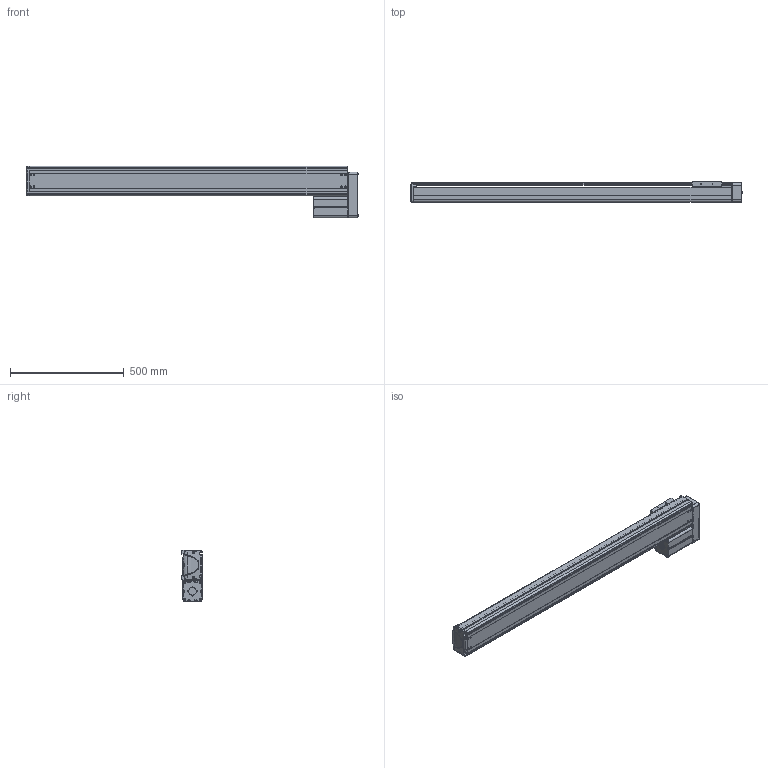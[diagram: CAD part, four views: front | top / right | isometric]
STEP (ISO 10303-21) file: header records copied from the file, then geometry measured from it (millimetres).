
FILE_DESCRIPTION((''),'2;1');
FILE_NAME('BE30E-UL-M_N-C0_IGS_PRT','2017-06-17T',(' '),(''),'PRO/ENGINEER BY PARAMETRIC TECHNOLOGY CORPORATION, 2015030','PRO/ENGINEER BY PARAMETRIC TECHNOLOGY CORPORATION, 2015030','');
FILE_SCHEMA(('CONFIG_CONTROL_DESIGN'));
Length unit declared in the file: millimetre
Products named in the file (1): BE30E-UL-M_N-C0_IGS_PRT
Bounding box: 1461.9 x 89.8 x 227 mm (x, y, z)
Volume: 4688322 mm3; surface area: 1957282.7 mm2
Topology: 2 solids, 135 shells, 2087 faces, 5635 edges, 3665 vertices
Faces by surface type: plane 1002, cylinder 895, cone 101, torus 37, bspline 28, sphere 24
Entity records: 67741 total; most frequent: CARTESIAN_POINT 14410, DIRECTION 11267, ORIENTED_EDGE 10688, EDGE_CURVE 5597, AXIS2_PLACEMENT_3D 3992, VERTEX_POINT 3665, VECTOR 3283, LINE 3283
